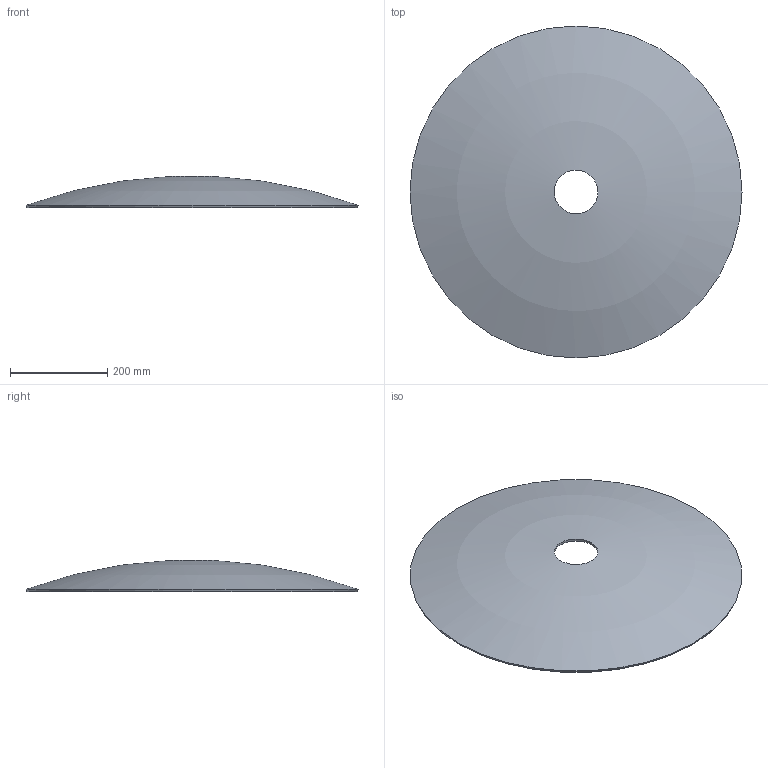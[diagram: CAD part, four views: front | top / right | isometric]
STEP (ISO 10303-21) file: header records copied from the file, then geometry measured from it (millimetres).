
FILE_DESCRIPTION(('Open CASCADE Model'),'2;1');
FILE_NAME('Open CASCADE Shape Model','2026-09-07T11:14:05',('Author'),( 'Open CASCADE'),'Open CASCADE STEP processor 7.9','Open CASCADE 7.9' ,'Unknown');
FILE_SCHEMA(('AUTOMOTIVE_DESIGN { 1 0 10303 214 1 1 1 1 }'));
Length unit declared in the file: millimetre
Products named in the file (1): Open CASCADE STEP translator 7.9 2
Bounding box: 684.04 x 684.04 x 63.99 mm (x, y, z)
Volume: 1853330.1 mm3; surface area: 753468.4 mm2
Topology: 1 solids, 1 shells, 4 faces, 8 edges, 4 vertices
Faces by surface type: sphere 2, cylinder 1, cone 1
Full cylindrical faces by diameter (mm): 90 x1
Entity records: 552 total; most frequent: CARTESIAN_POINT 375, DIRECTION 32, ORIENTED_EDGE 16, PCURVE 16, DEFINITIONAL_REPRESENTATION 16, LINE 14, VECTOR 14, AXIS2_PLACEMENT_3D 9
